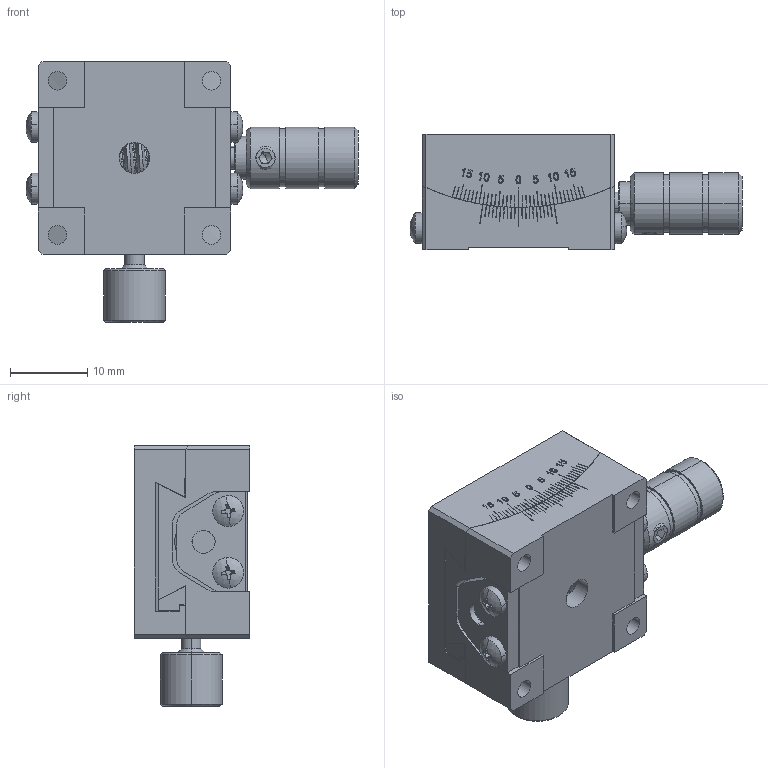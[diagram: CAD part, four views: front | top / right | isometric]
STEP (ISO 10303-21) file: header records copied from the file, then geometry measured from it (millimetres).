
FILE_DESCRIPTION (( 'STEP AP203' ), '1' );
FILE_NAME ('BFSG25-20.STEP', '2024-07-29T10:47:44', ( '微软用户' ), ( '微软中国' ), 'SwSTEP 2.0', 'SolidWorks 2024', '' );
FILE_SCHEMA (( 'CONFIG_CONTROL_DESIGN' ));
Length unit declared in the file: millimetre
Products named in the file (1): BFSG25-20
Bounding box: 43.08 x 15 x 33.86 mm (x, y, z)
Volume: 9262.1 mm3; surface area: 8196.2 mm2
Topology: 13 solids, 13 shells, 712 faces, 1923 edges, 1252 vertices
Faces by surface type: plane 447, cylinder 169, cone 47, bspline 41, sphere 8
Entity records: 31227 total; most frequent: CARTESIAN_POINT 13431, ORIENTED_EDGE 3798, DIRECTION 3541, EDGE_CURVE 1899, VERTEX_POINT 1252, VECTOR 1201, LINE 1201, AXIS2_PLACEMENT_3D 1170
